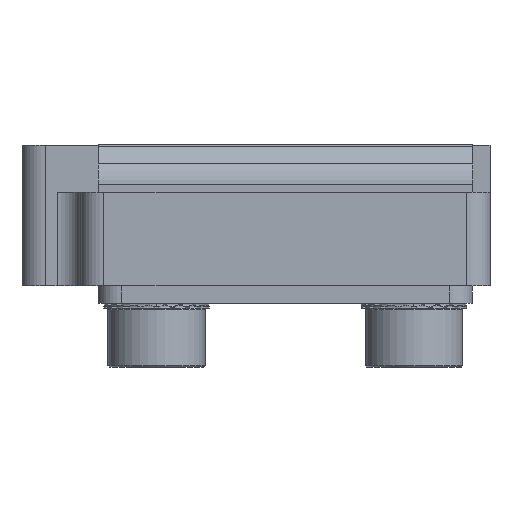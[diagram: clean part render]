
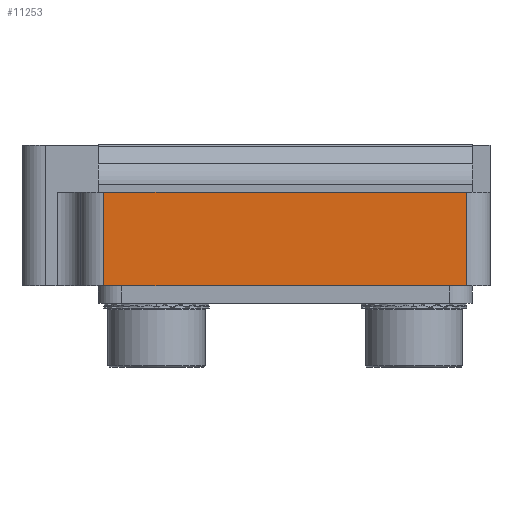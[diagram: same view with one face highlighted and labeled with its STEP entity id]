
A CAD part, front view. The second image highlights one B-rep face of the part: STEP entity #11253.
In plain terms, the highlighted planar face has unit normal (0, -1, 0).
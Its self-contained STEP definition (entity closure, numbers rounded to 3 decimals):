
#1210 = VECTOR ( 'NONE', #17344, 1000. ) ;
#1492 = CARTESIAN_POINT ( 'NONE',  ( -100.257, -57.356, 39.946 ) ) ;
#2356 = VECTOR ( 'NONE', #4338, 1000. ) ;
#2871 = CARTESIAN_POINT ( 'NONE',  ( -100.257, -57.356, 0. ) ) ;
#3395 = AXIS2_PLACEMENT_3D ( 'NONE', #28462, #16670, #9447 ) ;
#4304 = CARTESIAN_POINT ( 'NONE',  ( -69.257, -57.356, 47.946 ) ) ;
#4338 = DIRECTION ( 'NONE',  ( 1., 0., 0. ) ) ;
#4539 = CARTESIAN_POINT ( 'NONE',  ( -102.257, -57.356, 47.946 ) ) ;
#5016 = LINE ( 'NONE', #4539, #10750 ) ;
#6266 = ORIENTED_EDGE ( 'NONE', *, *, #26217, .T. ) ;
#7699 = LINE ( 'NONE', #2871, #1210 ) ;
#9447 = DIRECTION ( 'NONE',  ( 0., 0., 1. ) ) ;
#9651 = EDGE_LOOP ( 'NONE', ( #20797, #18927, #19577, #6266 ) ) ;
#10750 = VECTOR ( 'NONE', #24114, 1000. ) ;
#11253 = ADVANCED_FACE ( 'NONE', ( #16067 ), #28250, .F. ) ;
#12341 = EDGE_CURVE ( 'NONE', #30094, #21062, #20263, .T. ) ;
#15076 = CARTESIAN_POINT ( 'NONE',  ( -69.257, -57.356, 47.946 ) ) ;
#16067 = FACE_OUTER_BOUND ( 'NONE', #9651, .T. ) ;
#16097 = CARTESIAN_POINT ( 'NONE',  ( -69.257, -57.356, 39.946 ) ) ;
#16388 = CARTESIAN_POINT ( 'NONE',  ( -67.257, -57.356, 39.946 ) ) ;
#16670 = DIRECTION ( 'NONE',  ( 0., 1., 0. ) ) ;
#17344 = DIRECTION ( 'NONE',  ( 0., 0., -1. ) ) ;
#18927 = ORIENTED_EDGE ( 'NONE', *, *, #19699, .T. ) ;
#19577 = ORIENTED_EDGE ( 'NONE', *, *, #21768, .T. ) ;
#19699 = EDGE_CURVE ( 'NONE', #21062, #25003, #26871, .T. ) ;
#20263 = LINE ( 'NONE', #16388, #2356 ) ;
#20797 = ORIENTED_EDGE ( 'NONE', *, *, #12341, .T. ) ;
#21062 = VERTEX_POINT ( 'NONE', #16097 ) ;
#21355 = CARTESIAN_POINT ( 'NONE',  ( -100.257, -57.356, 47.946 ) ) ;
#21768 = EDGE_CURVE ( 'NONE', #25003, #30892, #5016, .T. ) ;
#24114 = DIRECTION ( 'NONE',  ( -1., 0., 0. ) ) ;
#25003 = VERTEX_POINT ( 'NONE', #15076 ) ;
#25738 = VECTOR ( 'NONE', #28771, 1000. ) ;
#26217 = EDGE_CURVE ( 'NONE', #30892, #30094, #7699, .T. ) ;
#26871 = LINE ( 'NONE', #4304, #25738 ) ;
#28250 = PLANE ( 'NONE',  #3395 ) ;
#28462 = CARTESIAN_POINT ( 'NONE',  ( 0., -57.356, 0. ) ) ;
#28771 = DIRECTION ( 'NONE',  ( 0., 0., 1. ) ) ;
#30094 = VERTEX_POINT ( 'NONE', #1492 ) ;
#30892 = VERTEX_POINT ( 'NONE', #21355 ) ;
